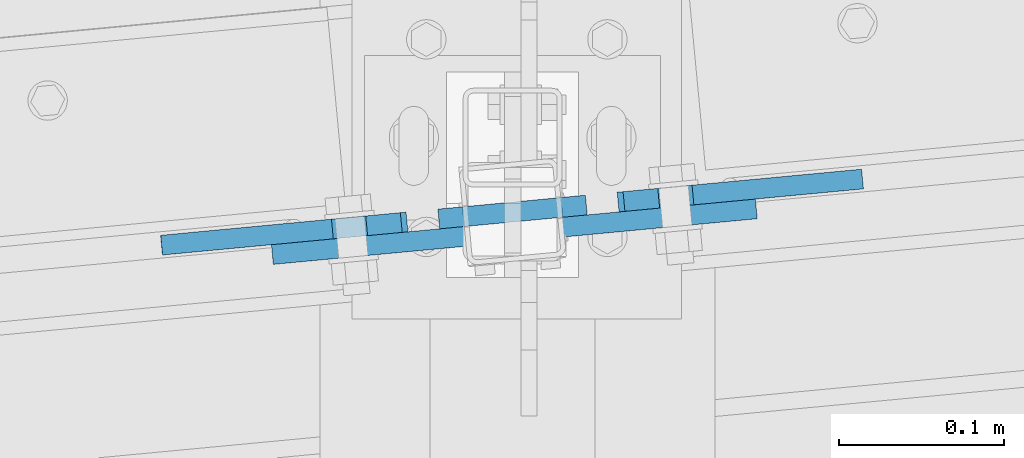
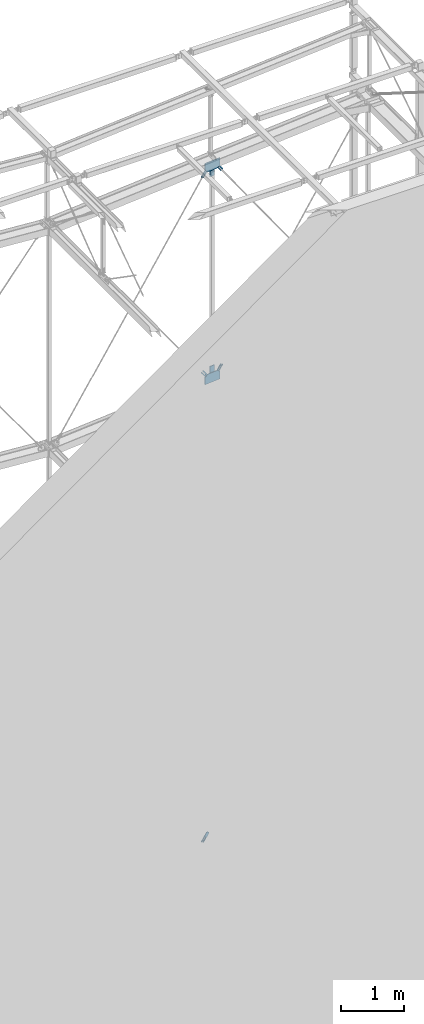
# One storey, part 179 of 271: 9 plates, 8 elements without a shape of their own.
"""IFC2X3 building model written with IfcOpenShell, lengths in millimetres."""

from ifc_helpers import new_model, si_unit, frame, origin_with_axes, place, context, subcontext, project, spatial, polyline, outline, extrude, material, type_object, element, aggregate, save


model = new_model("IFC2X3")

# Units and contexts
model_context = context("Model", 3, precision=1e-05, world=origin_with_axes())
body_context = subcontext(model_context, "Body", "Model", "MODEL_VIEW")
ifc_project = project(units=[si_unit("LENGTHUNIT", "METRE", prefix="MILLI"), si_unit("AREAUNIT", "SQUARE_METRE"), si_unit("VOLUMEUNIT", "CUBIC_METRE"), si_unit("MASSUNIT", "GRAM", prefix="KILO"), si_unit("TIMEUNIT", "SECOND"), si_unit("PLANEANGLEUNIT", "RADIAN"), si_unit("SOLIDANGLEUNIT", "STERADIAN"), si_unit("THERMODYNAMICTEMPERATUREUNIT", "DEGREE_CELSIUS"), si_unit("LUMINOUSINTENSITYUNIT", "LUMEN")], contexts=[model_context])

# Site, building, storey
site_placement = place(None, origin_with_axes())
site = spatial("IfcSite", under=ifc_project, at=site_placement, Name="Undefined", CompositionType="ELEMENT")
building_placement = place(site_placement, origin_with_axes())
building = spatial("IfcBuilding", under=site, at=building_placement, Name="Undefined", CompositionType="ELEMENT")
storey_placement = place(building_placement, origin_with_axes())
storey = spatial("IfcBuildingStorey", under=building, at=storey_placement, Name="Undefined", CompositionType="ELEMENT", Elevation=0.0)

# Assembly, plate
assembly_1_placement = place(storey_placement, origin_with_axes())
assembly_1 = element("IfcElementAssembly", 1, at=assembly_1_placement, inside=storey, AssemblyPlace="NOTDEFINED", PredefinedType="RIGID_FRAME")
ifc_material = material(Name="STEEL/S355JR")
plate_type_1 = type_object("IfcPlateType", Name="BL12*56", PredefinedType="NOTDEFINED")
plate_1_placement = place(assembly_1_placement, frame((9637.97525443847, 4015.45365345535, 14431.3834617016), z_axis=(-0.0938759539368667, 0.995583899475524, 6.61630780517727e-05), x_axis=(-0.981354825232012, -0.092523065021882, -0.168470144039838)))
plate_1 = element("IfcPlate", 2, at=plate_1_placement, type_object=plate_type_1, material=ifc_material, Name="BLACHA", ObjectType="BL12*56", context=body_context, shape_type="SweptSolid", body=[
    extrude(outline(polyline([(0.0, 0.0), (21.2132034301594, 1.09139364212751e-11), (39.5644226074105, 18.3512210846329), (39.5644226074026, 39.5644226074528), (-87.0076904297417, 166.136535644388), (-100.796272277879, 152.347961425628), (-30.0855941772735, 81.6372756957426), (-42.0728530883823, 69.6500167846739), (-112.783531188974, 140.36070251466), (-126.57211303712, 126.57211303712), (0.0, 0.0)])), frame((0.0, 0.0, -6.0), z_axis=(0.0, 0.0, 1.0), x_axis=(1.0, 0.0, 0.0)), (0.0, 0.0, 1.0), 12.0),
])
aggregate(assembly_1, [plate_1])

assembly_2_placement = place(storey_placement, origin_with_axes())
assembly_2 = element("IfcElementAssembly", 3, at=assembly_2_placement, inside=storey, AssemblyPlace="NOTDEFINED", PredefinedType="RIGID_FRAME")
plate_2_placement = place(assembly_2_placement, frame((9464.23141351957, 3999.06239470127, 14462.2853136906), z_axis=(-0.0939661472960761, 0.995575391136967, 6.103120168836e-05), x_axis=(-0.162052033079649, -0.0152345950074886, -0.986664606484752)))
plate_2 = element("IfcPlate", 4, at=plate_2_placement, type_object=plate_type_1, material=ifc_material, Name="BLACHA", ObjectType="BL12*56", context=body_context, shape_type="SweptSolid", body=[
    extrude(outline(polyline([(0.0, 0.0), (21.2132034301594, 1.09139364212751e-11), (39.5650482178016, 18.3518447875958), (39.5650482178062, 39.5650482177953), (-87.0070800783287, 166.13714599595), (-100.795661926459, 152.348571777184), (-30.0849819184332, 81.6378936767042), (-42.0728530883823, 69.6500167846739), (-112.783531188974, 140.36070251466), (-126.57211303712, 126.57211303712), (0.0, 0.0)])), frame((0.0, 0.0, -6.0), z_axis=(0.0, 0.0, 1.0), x_axis=(1.0, 0.0, 0.0)), (0.0, 0.0, 1.0), 12.0),
])
aggregate(assembly_2, [plate_2])

assembly_3_placement = place(storey_placement, origin_with_axes())
assembly_3 = element("IfcElementAssembly", 5, at=assembly_3_placement, inside=storey, AssemblyPlace="NOTDEFINED", PredefinedType="RIGID_FRAME")
plate_3_placement = place(assembly_3_placement, frame((9418.93535030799, 3994.80415727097, 18538.8004038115), z_axis=(-0.0939660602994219, 0.995575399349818, -6.10020992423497e-05), x_axis=(0.982180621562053, 0.0927118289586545, 0.163480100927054)))
plate_3 = element("IfcPlate", 6, at=plate_3_placement, type_object=plate_type_1, material=ifc_material, Name="BLACHA", ObjectType="BL12*56", context=body_context, shape_type="SweptSolid", body=[
    extrude(outline(polyline([(0.0, 0.0), (21.2132034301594, 1.09139364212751e-11), (39.5650024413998, 18.3517990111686), (39.5650024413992, 39.5650024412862), (-87.0071105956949, 166.137115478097), (-100.795692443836, 152.348541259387), (-30.0850162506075, 81.6378555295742), (-42.0728530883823, 69.6500167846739), (-112.783531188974, 140.36070251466), (-126.57211303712, 126.57211303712), (0.0, 0.0)])), frame((0.0, 0.0, -6.0), z_axis=(0.0, 0.0, 1.0), x_axis=(1.0, 0.0, 0.0)), (0.0, 0.0, 1.0), 12.0),
])
aggregate(assembly_3, [plate_3])

assembly_4_placement = place(storey_placement, origin_with_axes())
assembly_4 = element("IfcElementAssembly", 7, at=assembly_4_placement, inside=storey, AssemblyPlace="NOTDEFINED", PredefinedType="RIGID_FRAME")
plate_4_placement = place(assembly_4_placement, frame((9592.5119817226, 4011.17964568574, 18504.9817550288), z_axis=(-0.093875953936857, 0.995583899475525, -6.61630780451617e-05), x_axis=(0.167720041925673, 0.0158802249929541, 0.985706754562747)))
plate_4 = element("IfcPlate", 8, at=plate_4_placement, type_object=plate_type_1, material=ifc_material, Name="BLACHA", ObjectType="BL12*56", context=body_context, shape_type="SweptSolid", body=[
    extrude(outline(polyline([(0.0, 0.0), (21.2132034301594, 1.09139364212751e-11), (39.564743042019, 18.3515396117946), (39.5647430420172, 39.5647430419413), (-87.0073471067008, 166.13687133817), (-100.795928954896, 152.348297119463), (-30.0852527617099, 81.637619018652), (-42.0728530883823, 69.6500167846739), (-112.783531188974, 140.36070251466), (-126.57211303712, 126.57211303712), (0.0, 0.0)])), frame((0.0, 0.0, -6.0), z_axis=(0.0, 0.0, 1.0), x_axis=(1.0, 0.0, 0.0)), (0.0, 0.0, 1.0), 12.0),
])
aggregate(assembly_4, [plate_4])

assembly_5_placement = place(storey_placement, origin_with_axes())
assembly_5 = element("IfcElementAssembly", 9, at=assembly_5_placement, inside=storey, AssemblyPlace="NOTDEFINED", PredefinedType="RIGID_FRAME")
plate_5_placement = place(assembly_5_placement, frame((9418.93535031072, 3994.80415727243, 5578.80040380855), z_axis=(-0.0939660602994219, 0.995575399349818, -6.10020992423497e-05), x_axis=(0.982180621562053, 0.0927118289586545, 0.163480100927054)))
plate_5 = element("IfcPlate", 10, at=plate_5_placement, type_object=plate_type_1, material=ifc_material, Name="BLACHA", ObjectType="BL12*56", context=body_context, shape_type="SweptSolid", body=[
    extrude(outline(polyline([(0.0, 0.0), (21.2132034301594, 1.09139364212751e-11), (39.5650024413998, 18.3517990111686), (39.5650024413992, 39.5650024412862), (-87.0071105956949, 166.137115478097), (-100.795692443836, 152.348541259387), (-30.0850162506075, 81.6378555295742), (-42.0728530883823, 69.6500167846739), (-112.783531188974, 140.36070251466), (-126.57211303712, 126.57211303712), (0.0, 0.0)])), frame((0.0, 0.0, -6.0), z_axis=(0.0, 0.0, 1.0), x_axis=(1.0, 0.0, 0.0)), (0.0, 0.0, 1.0), 12.0),
])
aggregate(assembly_5, [plate_5])

# Assembly, plates
assembly_6_placement = place(storey_placement, origin_with_axes())
assembly_6 = element("IfcElementAssembly", 11, at=assembly_6_placement, inside=storey, AssemblyPlace="NOTDEFINED", PredefinedType="RIGID_FRAME")
plate_type_2 = type_object("IfcPlateType", Name="BL12*90", PredefinedType="NOTDEFINED")
plate_6_placement = place(assembly_6_placement, frame((9573.19690538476, 4009.33800990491, 14477.6614744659), z_axis=(-0.093922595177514, 0.99557950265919, 7.84095011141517e-15), x_axis=(-0.703981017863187, -0.0664133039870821, -0.707106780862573)))
plate_6 = element("IfcPlate", 12, at=plate_6_placement, type_object=plate_type_2, material=ifc_material, Name="BLACHA", ObjectType="BL12*90", context=body_context, shape_type="SweptSolid", body=[
    extrude(outline(polyline([(0.0, 0.0), (21.2132034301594, 1.09139364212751e-11), (63.6396102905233, 42.4264068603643), (63.6396102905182, 63.6396102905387), (-48.7903671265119, 176.069595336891), (-59.0431632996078, 165.816787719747), (-112.42997741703, 112.429977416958), (0.0, 0.0)])), frame((0.0, 0.0, -6.0), z_axis=(0.0, 0.0, 1.0), x_axis=(1.0, 0.0, 0.0)), (0.0, 0.0, 1.0), 12.0),
])
plate_7_placement = place(assembly_6_placement, frame((9483.5933493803, 4000.89982445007, 18491.0373809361), z_axis=(-0.093922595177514, 0.99557950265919, 7.84095011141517e-15), x_axis=(0.703981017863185, 0.0664133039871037, 0.707106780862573)))
plate_7 = element("IfcPlate", 13, at=plate_7_placement, type_object=plate_type_2, material=ifc_material, Name="BLACHA", ObjectType="BL12*90", context=body_context, shape_type="SweptSolid", body=[
    extrude(outline(polyline([(0.0, 0.0), (21.2132034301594, 1.09139364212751e-11), (63.6396102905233, 42.4264068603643), (63.6396102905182, 63.6396102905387), (-48.7903671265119, 176.069595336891), (-59.0431632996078, 165.816787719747), (-102.177185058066, 122.682769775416), (-112.42997741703, 112.429977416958), (0.0, 0.0)])), frame((0.0, 0.0, -6.0), z_axis=(0.0, 0.0, 1.0), x_axis=(1.0, 0.0, 0.0)), (0.0, 0.0, 1.0), 12.0),
])
aggregate(assembly_6, [plate_6, plate_7])

# Assembly, plate
assembly_7_placement = place(storey_placement, origin_with_axes())
assembly_7 = element("IfcElementAssembly", 14, at=assembly_7_placement, inside=storey, AssemblyPlace="NOTDEFINED", PredefinedType="RIGID_FRAME")
plate_type_3 = type_object("IfcPlateType", Name="BL12*185", PredefinedType="NOTDEFINED")
plate_8_placement = place(assembly_7_placement, frame((9676.45146010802, 4007.02572417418, 14327.6499998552), z_axis=(-0.093922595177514, 0.99557950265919, 7.84095011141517e-15), x_axis=(-0.995579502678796, -0.0939225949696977, 0.0)))
plate_8 = element("IfcPlate", 15, at=plate_8_placement, type_object=plate_type_3, material=ifc_material, Name="BLACHA", ObjectType="BL12*185", context=body_context, shape_type="SweptSolid", body=[
    extrude(outline(polyline([(0.0, 0.0), (295.2567138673, 2.5465851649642e-11), (295.2567138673, 142.647445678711), (238.362762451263, 183.428329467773), (197.581893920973, 185.011474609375), (57.1288414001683, 185.011474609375), (1.2732925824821e-11, 144.560317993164), (0.0, 0.0)])), frame((0.0, 0.0, -6.0), z_axis=(0.0, 0.0, 1.0), x_axis=(1.0, 0.0, 0.0)), (0.0, 0.0, 1.0), 12.0),
])
aggregate(assembly_7, [plate_8])

assembly_8_placement = place(storey_placement, origin_with_axes())
assembly_8 = element("IfcElementAssembly", 16, at=assembly_8_placement, inside=storey, AssemblyPlace="NOTDEFINED", PredefinedType="RIGID_FRAME")
plate_9_placement = place(assembly_8_placement, frame((9382.50935106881, 3979.31031665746, 18641.0499999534), z_axis=(-0.093922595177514, 0.99557950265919, 7.84095011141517e-15), x_axis=(0.995579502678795, 0.0939225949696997, 0.0)))
plate_9 = element("IfcPlate", 17, at=plate_9_placement, type_object=plate_type_3, material=ifc_material, Name="BLACHA", ObjectType="BL12*185", context=body_context, shape_type="SweptSolid", body=[
    extrude(outline(polyline([(0.0, 0.0), (295.246643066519, 2.18278728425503e-11), (295.246643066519, 144.561477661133), (238.117813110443, 185.012619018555), (97.6631317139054, 185.012619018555), (56.9234199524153, 183.626281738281), (1.2732925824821e-11, 142.886566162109), (0.0, 0.0)])), frame((0.0, 0.0, -6.0), z_axis=(0.0, 0.0, 1.0), x_axis=(1.0, 0.0, 0.0)), (0.0, 0.0, 1.0), 12.0),
])
aggregate(assembly_8, [plate_9])

save(model, "model.ifc")
